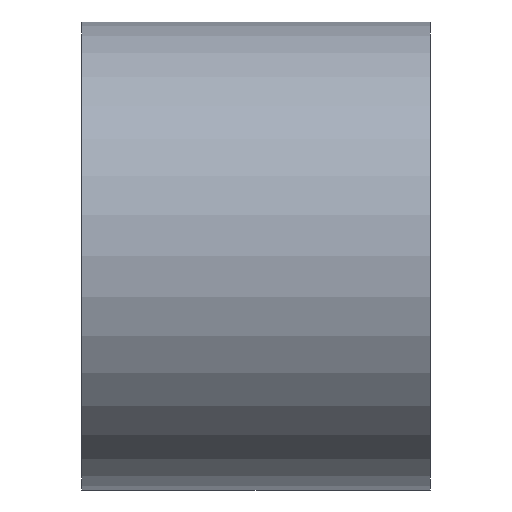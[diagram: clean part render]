
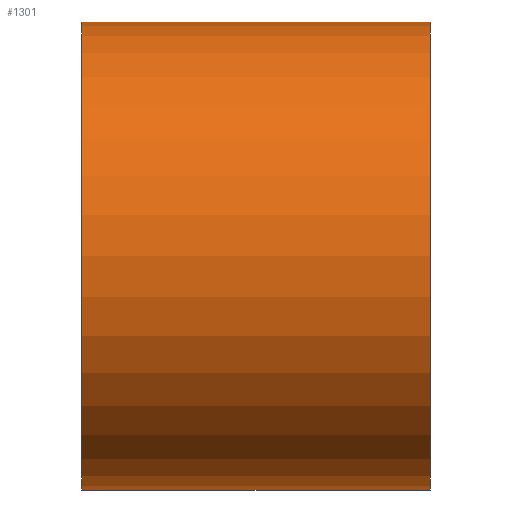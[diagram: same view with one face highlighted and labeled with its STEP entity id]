
A CAD part, front view. The second image highlights one B-rep face of the part: STEP entity #1301.
In plain terms, the highlighted cylindrical face has radius 84 mm (diameter 168 mm), a partial arc.
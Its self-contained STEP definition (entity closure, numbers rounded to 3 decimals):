
#65 = EDGE_CURVE ( 'NONE', #1436, #1335, #664, .T. ) ;
#102 = ORIENTED_EDGE ( 'NONE', *, *, #65, .F. ) ;
#123 = VERTEX_POINT ( 'NONE', #1016 ) ;
#193 = VERTEX_POINT ( 'NONE', #1115 ) ;
#295 = ORIENTED_EDGE ( 'NONE', *, *, #1258, .T. ) ;
#309 = CARTESIAN_POINT ( 'NONE',  ( 0., 0., -84. ) ) ;
#429 = LINE ( 'NONE', #430, #431 ) ;
#430 = CARTESIAN_POINT ( 'NONE',  ( 0., 0., -84. ) ) ;
#431 = VECTOR ( 'NONE', #432, 1000. ) ;
#432 = DIRECTION ( 'NONE',  ( -1., 0., 0. ) ) ;
#664 = CIRCLE ( 'NONE', #665, 84. ) ;
#665 = AXIS2_PLACEMENT_3D ( 'NONE', #666, #667, #668 ) ;
#666 = CARTESIAN_POINT ( 'NONE',  ( 0., 0., 0. ) ) ;
#667 = DIRECTION ( 'NONE',  ( -1., 0., 0. ) ) ;
#668 = DIRECTION ( 'NONE',  ( 0., 0., 1. ) ) ;
#669 = LINE ( 'NONE', #671, #672 ) ;
#671 = CARTESIAN_POINT ( 'NONE',  ( 0., 0., 84. ) ) ;
#672 = VECTOR ( 'NONE', #673, 1000. ) ;
#673 = DIRECTION ( 'NONE',  ( -1., 0., 0. ) ) ;
#797 = ORIENTED_EDGE ( 'NONE', *, *, #1343, .T. ) ;
#919 = FACE_OUTER_BOUND ( 'NONE', #1275, .T. ) ;
#920 = CYLINDRICAL_SURFACE ( 'NONE', #921, 84. ) ;
#921 = AXIS2_PLACEMENT_3D ( 'NONE', #922, #926, #927 ) ;
#922 = CARTESIAN_POINT ( 'NONE',  ( 0., 0., 0. ) ) ;
#926 = DIRECTION ( 'NONE',  ( -1., 0., 0. ) ) ;
#927 = DIRECTION ( 'NONE',  ( 0., 0., 1. ) ) ;
#1016 = CARTESIAN_POINT ( 'NONE',  ( 125., 0., -84. ) ) ;
#1071 = CARTESIAN_POINT ( 'NONE',  ( 0., 0., 84. ) ) ;
#1101 = CIRCLE ( 'NONE', #1102, 84. ) ;
#1102 = AXIS2_PLACEMENT_3D ( 'NONE', #1103, #1104, #1105 ) ;
#1103 = CARTESIAN_POINT ( 'NONE',  ( 125., 0., 0. ) ) ;
#1104 = DIRECTION ( 'NONE',  ( -1., 0., 0. ) ) ;
#1105 = DIRECTION ( 'NONE',  ( 0., 0., 1. ) ) ;
#1115 = CARTESIAN_POINT ( 'NONE',  ( 125., 0., 84. ) ) ;
#1221 = ORIENTED_EDGE ( 'NONE', *, *, #1448, .F. ) ;
#1258 = EDGE_CURVE ( 'NONE', #193, #1335, #669, .T. ) ;
#1275 = EDGE_LOOP ( 'NONE', ( #1221, #797, #295, #102 ) ) ;
#1301 = ADVANCED_FACE ( 'NONE', ( #919 ), #920, .T. ) ;
#1335 = VERTEX_POINT ( 'NONE', #1071 ) ;
#1343 = EDGE_CURVE ( 'NONE', #123, #193, #1101, .T. ) ;
#1436 = VERTEX_POINT ( 'NONE', #309 ) ;
#1448 = EDGE_CURVE ( 'NONE', #123, #1436, #429, .T. ) ;
